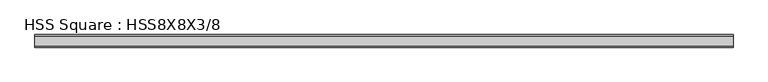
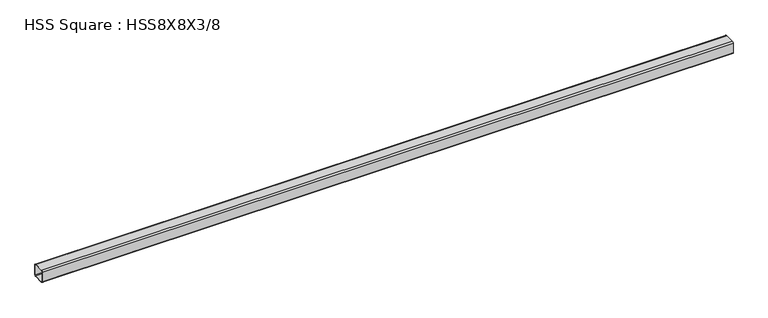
"""IFC4 building model written with IfcOpenShell, lengths in millimetres: beam geometry, HSS Square : HSS8X8X3/8."""

from ifc_helpers import new_model, si_unit, point, frame, frame_2d, origin, place, context, project, spatial, polyline, circle_curve, trimmed, segment, composite_curve, outline, extrude, source, transform, mapped, element, save


def hss_square_hss8x8x3_8_38b9e08e(model_context):
    return source(origin(), model_context, "Body", "SweptSolid", [
        extrude(outline(composite_curve([segment(polyline([(101.6, 82.55), (101.6, -82.55)]), True, "CONTINUOUS"), segment(trimmed(circle_curve(frame_2d((82.55, -82.55)), 19.05), [point((101.6, -82.55))], [point((82.55, -101.6))], False, "CARTESIAN"), True, "CONTINUOUS"), segment(polyline([(82.55, -101.6), (-82.55, -101.6)]), True, "CONTINUOUS"), segment(trimmed(circle_curve(frame_2d((-82.55, -82.55)), 19.05), [point((-82.55, -101.6))], [point((-101.6, -82.55))], False, "CARTESIAN"), True, "CONTINUOUS"), segment(polyline([(-101.6, -82.55), (-101.6, 82.55)]), True, "CONTINUOUS"), segment(trimmed(circle_curve(frame_2d((-82.55, 82.55)), 19.05), [point((-101.6, 82.55))], [point((-82.55, 101.6))], False, "CARTESIAN"), True, "CONTINUOUS"), segment(polyline([(-82.55, 101.6), (82.55, 101.6)]), True, "CONTINUOUS"), segment(trimmed(circle_curve(frame_2d((82.55, 82.55)), 19.05), [point((82.55, 101.6))], [point((101.6, 82.55))], False, "CARTESIAN"), True, "CONTINUOUS")], self_intersect=False), holes=[composite_curve([segment(trimmed(circle_curve(frame_2d((-82.55, 82.55)), 9.525), [point((-82.55, 92.075))], [point((-92.075, 82.55))], True, "CARTESIAN"), True, "CONTINUOUS"), segment(polyline([(-92.075, 82.55), (-92.075, -82.55)]), True, "CONTINUOUS"), segment(trimmed(circle_curve(frame_2d((-82.55, -82.55)), 9.525), [point((-92.075, -82.55))], [point((-82.55, -92.075))], True, "CARTESIAN"), True, "CONTINUOUS"), segment(polyline([(-82.55, -92.075), (82.55, -92.075)]), True, "CONTINUOUS"), segment(trimmed(circle_curve(frame_2d((82.55, -82.55)), 9.525), [point((82.55, -92.075))], [point((92.075, -82.55))], True, "CARTESIAN"), True, "CONTINUOUS"), segment(polyline([(92.075, -82.55), (92.075, 82.55)]), True, "CONTINUOUS"), segment(trimmed(circle_curve(frame_2d((82.55, 82.55)), 9.525), [point((92.075, 82.55))], [point((82.55, 92.075))], True, "CARTESIAN"), True, "CONTINUOUS"), segment(polyline([(82.55, 92.075), (-82.55, 92.075)]), True, "CONTINUOUS")], self_intersect=False)]), frame((-5515.9049792, 0.0, 0.0), z_axis=(1.0, 0.0, 0.0), x_axis=(0.0, 1.0, 0.0)), (0.0, 0.0, 1.0), 11196.9099583),
    ])


if __name__ == "__main__":
    model = new_model("IFC4")
    model_context = context("Model", 3, world=origin())
    ifc_project = project(units=[si_unit("LENGTHUNIT", "METRE", prefix="MILLI")], contexts=[model_context])
    site = spatial("IfcSite", under=ifc_project)
    building = spatial("IfcBuilding", under=site)
    placement = place(None, origin())
    hss_square_hss8x8x3_8_shape = hss_square_hss8x8x3_8_38b9e08e(model_context)
    element("IfcBeam", 1, ObjectType="HSS Square : HSS8X8X3/8", at=placement, inside=building, context=model_context, shape_type="MappedRepresentation", body=[
        mapped(hss_square_hss8x8x3_8_shape, transform((0.0, 0.0, 0.0), x_axis=(1.0, 0.0, 0.0), y_axis=(0.0, 1.0, 0.0), z_axis=(0.0, 0.0, 1.0))),
    ])
    save(model, "model.ifc")
